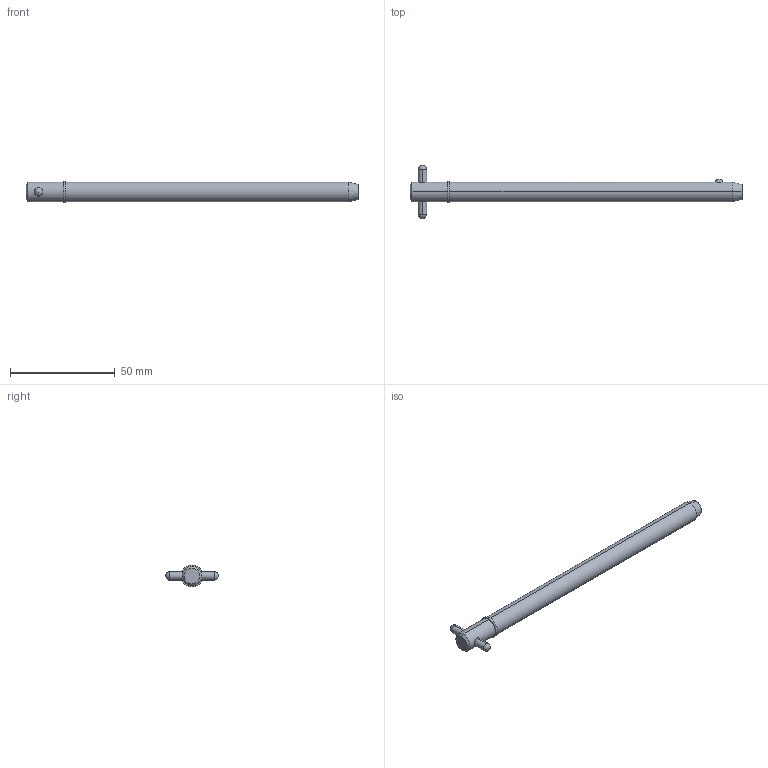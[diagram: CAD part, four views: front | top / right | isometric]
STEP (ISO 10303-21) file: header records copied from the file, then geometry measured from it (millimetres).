
FILE_DESCRIPTION (( 'STEP AP203' ), '1' );
FILE_NAME ('33018.W3750.step', '2024-11-19T17:12:06', ( '' ), ( '' ), 'SwSTEP 2.0', 'SolidWorks 2019', '' );
FILE_SCHEMA (( 'CONFIG_CONTROL_DESIGN' ));
Length unit declared in the file: millimetre
Products named in the file (3): Part2_33018.W3750; Part1_33018.W3750; 33018.W3750
Assembly tree (2 placements, depth 2):
  33018.W3750
    Part1_33018.W3750
    Part2_33018.W3750
Bounding box: 158.75 x 25.4 x 10.48 mm (x, y, z)
Volume: 11442.2 mm3; surface area: 5277.3 mm2
Topology: 2 solids, 2 shells, 22 faces, 47 edges, 30 vertices
Faces by surface type: cylinder 10, sphere 4, cone 4, plane 4
Entity records: 1023 total; most frequent: CARTESIAN_POINT 266, DIRECTION 110, ORIENTED_EDGE 82, AXIS2_PLACEMENT_3D 48, EDGE_CURVE 41, EDGE_LOOP 27, VERTEX_POINT 26, PERSON_AND_ORGANIZATION 26
